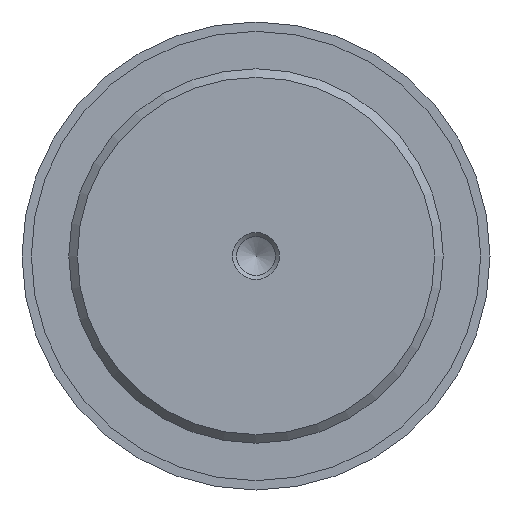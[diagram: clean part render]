
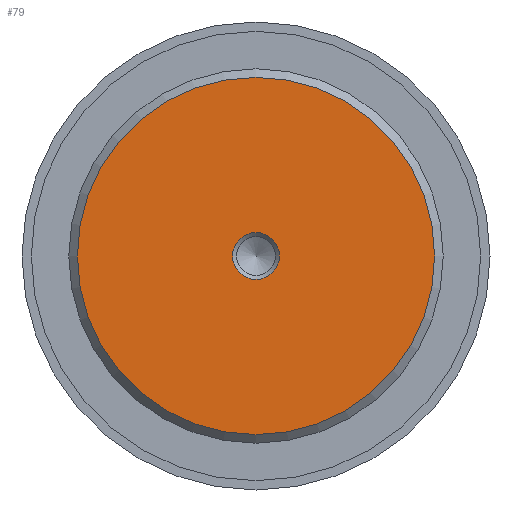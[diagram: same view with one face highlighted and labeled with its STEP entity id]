
A CAD part, front view. The second image highlights one B-rep face of the part: STEP entity #79.
In plain terms, the highlighted planar face has unit normal (0, -1, 0).
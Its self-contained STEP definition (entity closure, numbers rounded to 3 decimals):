
#79 = ADVANCED_FACE( '', ( #139, #140 ), #141, .F. );
#139 = FACE_BOUND( '', #257, .T. );
#140 = FACE_OUTER_BOUND( '', #258, .T. );
#141 = PLANE( '', #259 );
#257 = EDGE_LOOP( '', ( #387 ) );
#258 = EDGE_LOOP( '', ( #388 ) );
#259 = AXIS2_PLACEMENT_3D( '', #389, #390, #391 );
#387 = ORIENTED_EDGE( '', *, *, #758, .F. );
#388 = ORIENTED_EDGE( '', *, *, #762, .T. );
#389 = CARTESIAN_POINT( '', ( 19.08, 0., 0. ) );
#390 = DIRECTION( '', ( 0., 1., 0. ) );
#391 = DIRECTION( '', ( 0., 0., 1. ) );
#758 = EDGE_CURVE( '', #880, #880, #881, .T. );
#762 = EDGE_CURVE( '', #886, #886, #887, .T. );
#880 = VERTEX_POINT( '', #1092 );
#881 = CIRCLE( '', #1093, 2.5 );
#886 = VERTEX_POINT( '', #1098 );
#887 = CIRCLE( '', #1099, 19.08 );
#1092 = CARTESIAN_POINT( '', ( 2.5, 0., 0. ) );
#1093 = AXIS2_PLACEMENT_3D( '', #1442, #1443, #1444 );
#1098 = CARTESIAN_POINT( '', ( 0., 0., -19.08 ) );
#1099 = AXIS2_PLACEMENT_3D( '', #1451, #1452, #1453 );
#1442 = CARTESIAN_POINT( '', ( 0., 0., 0. ) );
#1443 = DIRECTION( '', ( 0., -1., 0. ) );
#1444 = DIRECTION( '', ( 1., 0., 0. ) );
#1451 = CARTESIAN_POINT( '', ( 0., 0., 0. ) );
#1452 = DIRECTION( '', ( 0., -1., 0. ) );
#1453 = DIRECTION( '', ( 0., 0., -1. ) );
